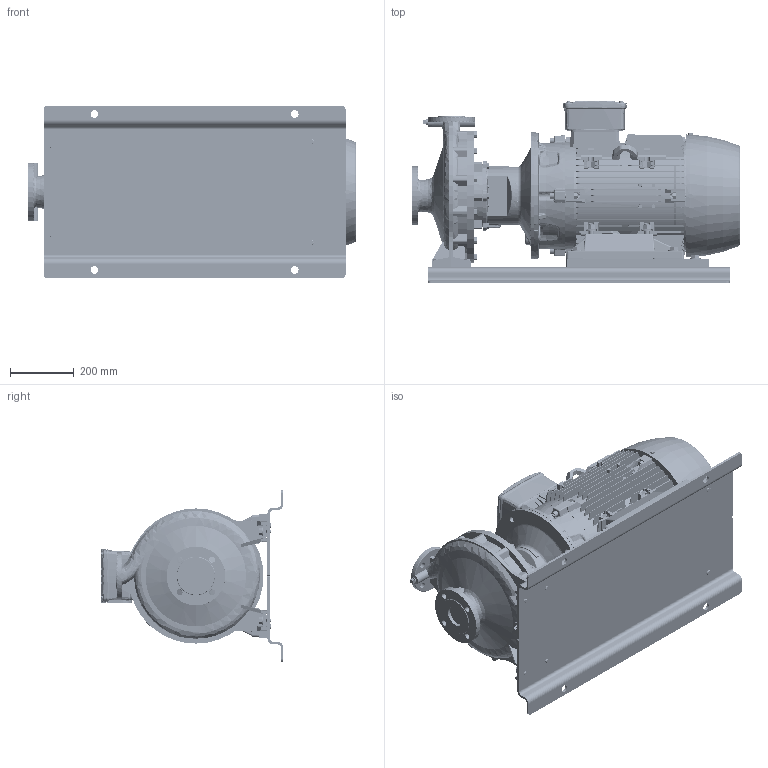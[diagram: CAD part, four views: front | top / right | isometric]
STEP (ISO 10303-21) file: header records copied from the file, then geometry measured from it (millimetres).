
FILE_DESCRIPTION (( 'STEP AP214' ), '1' );
FILE_NAME ('GSD2 40-315_30.0 & 37.0_(200ML)_W21_BP.STEP', '2024-04-26T05:02:21', ( '' ), ( '' ), 'SwSTEP 2.0', 'SolidWorks 2019', '' );
FILE_SCHEMA (( 'AUTOMOTIVE_DESIGN' ));
Length unit declared in the file: millimetre
Products named in the file (18): Parametric bolt and washer_SFT-A359B; Parametric bolt and washer_SFT-A299B; Parametric Flat Washer_M16; Parametric bolt_SFT-A299B; 80x25 - CGSDA-5271; 200M_L ALIE3_W21T_B35; Parametric bolt_SFT-A355B; Parametric bolt_SFT-A359B; N6S2 GSDA-626 F1-1832939-00; GSD2  40-315_30.0 & 37.0_(200ML)_W21_BP; 40-315-200M_L; Parametric Flat Washer_M12
Assembly tree (33 placements, depth 3):
  GSD2  40-315_30.0 & 37.0_(200ML)_W21_BP
    40-315-200M_L
    N6S2 GSDA-626 F1-1832939-00
    80x25 - CGSDA-5271  x2
    Parametric bolt and washer_SFT-A299B
      Parametric bolt_SFT-A299B
      Parametric Flat Washer_M12
    Parametric bolt and washer_SFT-A299B
      Parametric bolt_SFT-A299B
      Parametric Flat Washer_M12
    Parametric bolt and washer_SFT-A299B
      Parametric bolt_SFT-A299B
      Parametric Flat Washer_M12
    Parametric bolt and washer_SFT-A299B
      Parametric bolt_SFT-A299B
      Parametric Flat Washer_M12
    Parametric bolt_SFT-A355B  x2
    Parametric Flat Washer_M16  x2
    200M_L ALIE3_W21T_B35
    Parametric bolt and washer_SFT-A359B
      Parametric bolt_SFT-A359B
      Parametric Flat Washer_M16
    Parametric bolt and washer_SFT-A359B
      Parametric bolt_SFT-A359B
      Parametric Flat Washer_M16
    Parametric bolt and washer_SFT-A359B
      Parametric bolt_SFT-A359B
      Parametric Flat Washer_M16
    Parametric bolt and washer_SFT-A359B
      Parametric bolt_SFT-A359B
      Parametric Flat Washer_M16
Bounding box: 1033.8 x 574.5 x 540 mm (x, y, z)
Volume: 89377585.9 mm3; surface area: 5590362.2 mm2
Topology: 61 solids, 71 shells, 7641 faces, 19811 edges, 12739 vertices
Faces by surface type: plane 4408, cylinder 1368, bspline 1003, cone 640, torus 218, sphere 4
Entity records: 302504 total; most frequent: CARTESIAN_POINT 122321, ORIENTED_EDGE 37080, DIRECTION 30072, EDGE_CURVE 18540, VERTEX_POINT 11993, VECTOR 11266, LINE 11266, AXIS2_PLACEMENT_3D 9403
